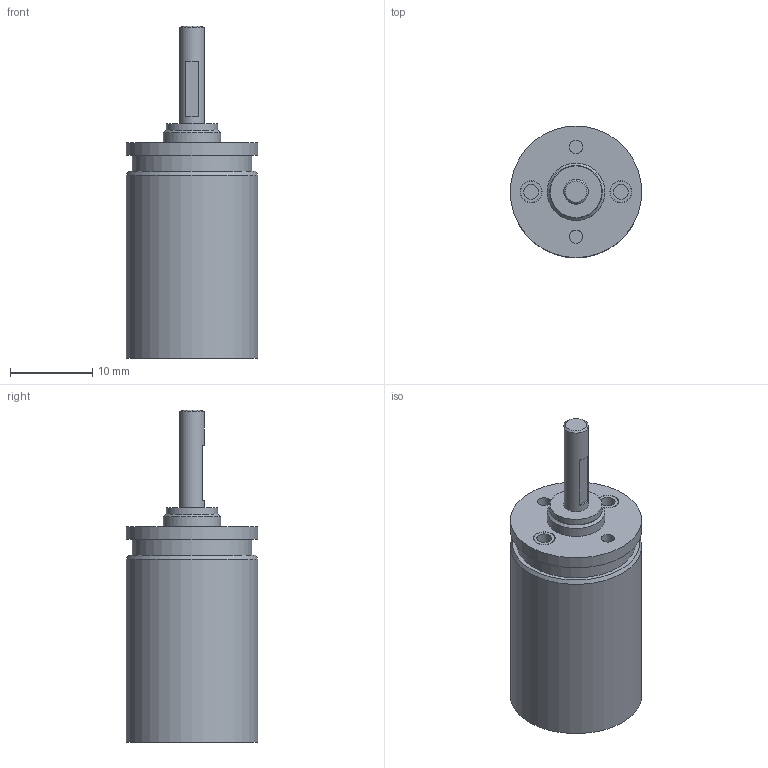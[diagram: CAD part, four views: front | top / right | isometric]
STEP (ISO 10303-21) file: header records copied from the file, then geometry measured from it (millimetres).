
FILE_DESCRIPTION(/* description */ (''),/* implementation_level */ '2;1');
FILE_NAME(/* name */ '15-5_2.stp',/* time_stamp */ '2016-08-24T14:11:46+02:00',/* author */ ('DR. FRITZ FAULHABER GmbH & Co. KG'),/* organization */ ('DR. FRITZ FAULHABER GmbH & Co. KG'),/* preprocessor_version */ 'ST-DEVELOPER v16',/* originating_system */ 'SIEMENS PLM Software NX 10.0',/* authorisation */ '');
FILE_SCHEMA (('AUTOMOTIVE_DESIGN { 1 0 10303 214 3 1 1 1 }'));
Length unit declared in the file: millimetre
Products named in the file (1): H00000508_A
Bounding box: 16 x 16 x 40.4 mm (x, y, z)
Volume: 2992.1 mm3; surface area: 2651 mm2
Topology: 1 solids, 1 shells, 41 faces, 64 edges, 42 vertices
Faces by surface type: plane 21, cylinder 17, cone 3
Full cylindrical faces by diameter (mm): 1.6 x2, 1.8 x2, 2.48 x1, 2.584 x2, 2.684 x2, 3 x1, 6 x1, 6.3 x1, 7 x1, 14.5 x1, 15 x1, 16 x2
Entity records: 856 total; most frequent: DIRECTION 166, CARTESIAN_POINT 126, ORIENTED_EDGE 86, AXIS2_PLACEMENT_3D 81, EDGE_LOOP 78, FACE_BOUND 69, EDGE_CURVE 43, ADVANCED_FACE 41
